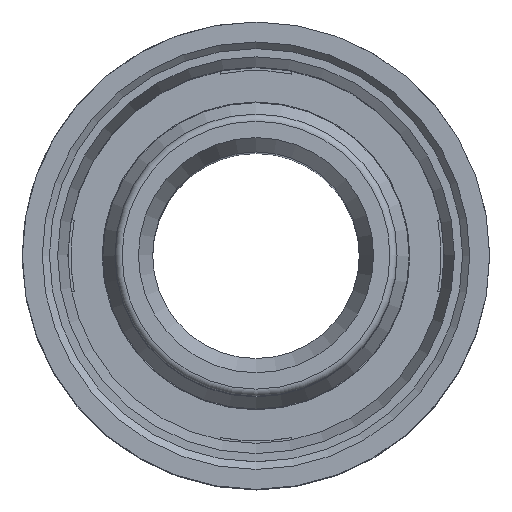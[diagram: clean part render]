
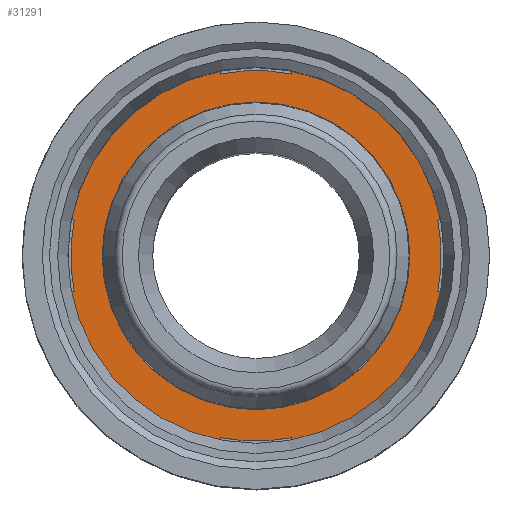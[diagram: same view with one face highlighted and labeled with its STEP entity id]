
A CAD part, top view. The second image highlights one B-rep face of the part: STEP entity #31291.
In plain terms, the highlighted planar face has unit normal (0, 0, 1).
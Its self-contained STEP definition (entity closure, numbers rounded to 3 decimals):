
#211=FACE_BOUND('',#8390,.T.);
#520=PLANE('',#32910);
#1888=LINE('',#64067,#3696);
#1898=LINE('',#64090,#3706);
#1902=LINE('',#64100,#3710);
#1909=LINE('',#64118,#3717);
#1914=LINE('',#64129,#3722);
#1920=LINE('',#64142,#3728);
#1926=LINE('',#64158,#3734);
#1933=LINE('',#64176,#3741);
#3696=VECTOR('',#36426,10.);
#3706=VECTOR('',#36444,10.);
#3710=VECTOR('',#36450,10.);
#3717=VECTOR('',#36465,10.);
#3722=VECTOR('',#36472,10.);
#3728=VECTOR('',#36480,10.);
#3734=VECTOR('',#36494,10.);
#3741=VECTOR('',#36509,10.);
#6578=FACE_OUTER_BOUND('',#8389,.T.);
#8389=EDGE_LOOP('',(#26783,#26784,#26785,#26786,#26787,#26788,#26789,#26790,
#26791,#26792,#26793,#26794,#26795,#26796,#26797,#26798));
#8390=EDGE_LOOP('',(#26799,#26800));
#9428=CIRCLE('',#32850,13.);
#9430=CIRCLE('',#32855,13.);
#9432=CIRCLE('',#32861,13.);
#9434=CIRCLE('',#32865,13.);
#9451=CIRCLE('',#32889,13.2);
#9454=CIRCLE('',#32892,13.2);
#9455=CIRCLE('',#32893,13.2);
#9456=CIRCLE('',#32894,13.2);
#9465=CIRCLE('',#32908,10.8);
#9466=CIRCLE('',#32909,10.8);
#14135=VERTEX_POINT('',#64064);
#14136=VERTEX_POINT('',#64066);
#14140=VERTEX_POINT('',#64076);
#14142=VERTEX_POINT('',#64082);
#14149=VERTEX_POINT('',#64097);
#14150=VERTEX_POINT('',#64099);
#14152=VERTEX_POINT('',#64105);
#14157=VERTEX_POINT('',#64116);
#14161=VERTEX_POINT('',#64126);
#14162=VERTEX_POINT('',#64128);
#14167=VERTEX_POINT('',#64139);
#14168=VERTEX_POINT('',#64141);
#14173=VERTEX_POINT('',#64155);
#14174=VERTEX_POINT('',#64157);
#14176=VERTEX_POINT('',#64163);
#14181=VERTEX_POINT('',#64174);
#14195=VERTEX_POINT('',#64234);
#14196=VERTEX_POINT('',#64236);
#18451=EDGE_CURVE('',#14135,#14136,#1888,.T.);
#18456=EDGE_CURVE('',#14136,#14140,#9428,.T.);
#18463=EDGE_CURVE('',#14140,#14142,#1898,.T.);
#18467=EDGE_CURVE('',#14149,#14150,#1902,.T.);
#18470=EDGE_CURVE('',#14152,#14149,#9430,.T.);
#18476=EDGE_CURVE('',#14157,#14152,#1909,.T.);
#18481=EDGE_CURVE('',#14161,#14162,#1914,.T.);
#18487=EDGE_CURVE('',#14167,#14168,#1920,.T.);
#18490=EDGE_CURVE('',#14162,#14167,#9432,.T.);
#18495=EDGE_CURVE('',#14173,#14174,#1926,.T.);
#18498=EDGE_CURVE('',#14176,#14173,#9434,.T.);
#18504=EDGE_CURVE('',#14181,#14176,#1933,.T.);
#18521=EDGE_CURVE('',#14161,#14142,#9451,.T.);
#18525=EDGE_CURVE('',#14181,#14168,#9454,.T.);
#18526=EDGE_CURVE('',#14157,#14174,#9455,.T.);
#18527=EDGE_CURVE('',#14135,#14150,#9456,.T.);
#18539=EDGE_CURVE('',#14195,#14196,#9465,.T.);
#18540=EDGE_CURVE('',#14196,#14195,#9466,.T.);
#26783=ORIENTED_EDGE('',*,*,#18463,.F.);
#26784=ORIENTED_EDGE('',*,*,#18456,.F.);
#26785=ORIENTED_EDGE('',*,*,#18451,.F.);
#26786=ORIENTED_EDGE('',*,*,#18527,.T.);
#26787=ORIENTED_EDGE('',*,*,#18467,.F.);
#26788=ORIENTED_EDGE('',*,*,#18470,.F.);
#26789=ORIENTED_EDGE('',*,*,#18476,.F.);
#26790=ORIENTED_EDGE('',*,*,#18526,.T.);
#26791=ORIENTED_EDGE('',*,*,#18495,.F.);
#26792=ORIENTED_EDGE('',*,*,#18498,.F.);
#26793=ORIENTED_EDGE('',*,*,#18504,.F.);
#26794=ORIENTED_EDGE('',*,*,#18525,.T.);
#26795=ORIENTED_EDGE('',*,*,#18487,.F.);
#26796=ORIENTED_EDGE('',*,*,#18490,.F.);
#26797=ORIENTED_EDGE('',*,*,#18481,.F.);
#26798=ORIENTED_EDGE('',*,*,#18521,.T.);
#26799=ORIENTED_EDGE('',*,*,#18540,.F.);
#26800=ORIENTED_EDGE('',*,*,#18539,.F.);
#31291=ADVANCED_FACE('',(#6578,#211),#520,.F.);
#32850=AXIS2_PLACEMENT_3D('',#64077,#36433,#36434);
#32855=AXIS2_PLACEMENT_3D('',#64106,#36455,#36456);
#32861=AXIS2_PLACEMENT_3D('',#64147,#36485,#36486);
#32865=AXIS2_PLACEMENT_3D('',#64164,#36499,#36500);
#32889=AXIS2_PLACEMENT_3D('',#64202,#36553,#36554);
#32892=AXIS2_PLACEMENT_3D('',#64208,#36560,#36561);
#32893=AXIS2_PLACEMENT_3D('',#64209,#36562,#36563);
#32894=AXIS2_PLACEMENT_3D('',#64210,#36564,#36565);
#32908=AXIS2_PLACEMENT_3D('',#64237,#36595,#36596);
#32909=AXIS2_PLACEMENT_3D('',#64238,#36597,#36598);
#32910=AXIS2_PLACEMENT_3D('',#64239,#36599,#36600);
#36426=DIRECTION('',(0.982,0.191,0.));
#36433=DIRECTION('center_axis',(0.,0.,-1.));
#36434=DIRECTION('ref_axis',(0.981,-0.192,0.));
#36444=DIRECTION('',(-0.982,0.191,0.));
#36450=DIRECTION('',(-0.191,-0.982,0.));
#36455=DIRECTION('center_axis',(0.,0.,-1.));
#36456=DIRECTION('ref_axis',(0.192,0.981,0.));
#36465=DIRECTION('',(-0.191,0.982,0.));
#36472=DIRECTION('',(0.191,-0.982,0.));
#36480=DIRECTION('',(0.191,0.982,0.));
#36485=DIRECTION('center_axis',(0.,0.,-1.));
#36486=DIRECTION('ref_axis',(-0.192,-0.981,0.));
#36494=DIRECTION('',(0.982,-0.191,0.));
#36499=DIRECTION('center_axis',(0.,0.,-1.));
#36500=DIRECTION('ref_axis',(-0.981,0.192,0.));
#36509=DIRECTION('',(-0.982,-0.191,0.));
#36553=DIRECTION('center_axis',(0.,0.,1.));
#36554=DIRECTION('ref_axis',(1.,0.,0.));
#36560=DIRECTION('center_axis',(0.,0.,1.));
#36561=DIRECTION('ref_axis',(1.,0.,0.));
#36562=DIRECTION('center_axis',(0.,0.,1.));
#36563=DIRECTION('ref_axis',(1.,0.,0.));
#36564=DIRECTION('center_axis',(0.,0.,1.));
#36565=DIRECTION('ref_axis',(1.,0.,0.));
#36595=DIRECTION('center_axis',(0.,0.,1.));
#36596=DIRECTION('ref_axis',(1.,0.,0.));
#36597=DIRECTION('center_axis',(0.,0.,1.));
#36598=DIRECTION('ref_axis',(1.,0.,0.));
#36599=DIRECTION('center_axis',(0.,0.,-1.));
#36600=DIRECTION('ref_axis',(-1.,0.,0.));
#64064=CARTESIAN_POINT('',(-12.954,-2.538,-6.519));
#64066=CARTESIAN_POINT('',(-12.757,-2.5,-6.519));
#64067=CARTESIAN_POINT('',(-7.613,-1.5,-6.519));
#64076=CARTESIAN_POINT('',(-12.757,2.5,-6.519));
#64077=CARTESIAN_POINT('Origin',(0.,0.,-6.519));
#64082=CARTESIAN_POINT('',(-12.954,2.538,-6.519));
#64090=CARTESIAN_POINT('',(-7.214,1.422,-6.519));
#64097=CARTESIAN_POINT('',(-2.5,-12.757,-6.519));
#64099=CARTESIAN_POINT('',(-2.538,-12.954,-6.519));
#64100=CARTESIAN_POINT('',(-2.899,-14.81,-6.519));
#64105=CARTESIAN_POINT('',(2.5,-12.757,-6.519));
#64106=CARTESIAN_POINT('Origin',(0.,0.,-6.519));
#64116=CARTESIAN_POINT('',(2.538,-12.954,-6.519));
#64118=CARTESIAN_POINT('',(2.496,-12.736,-6.519));
#64126=CARTESIAN_POINT('',(-2.538,12.954,-6.519));
#64128=CARTESIAN_POINT('',(-2.5,12.757,-6.519));
#64129=CARTESIAN_POINT('',(-0.024,0.017,-6.519));
#64139=CARTESIAN_POINT('',(2.5,12.757,-6.519));
#64141=CARTESIAN_POINT('',(2.538,12.954,-6.519));
#64142=CARTESIAN_POINT('',(0.427,2.09,-6.519));
#64147=CARTESIAN_POINT('Origin',(0.,0.,-6.519));
#64155=CARTESIAN_POINT('',(12.757,-2.5,-6.519));
#64157=CARTESIAN_POINT('',(12.954,-2.538,-6.519));
#64158=CARTESIAN_POINT('',(9.686,-1.903,-6.519));
#64163=CARTESIAN_POINT('',(12.757,2.5,-6.519));
#64164=CARTESIAN_POINT('Origin',(0.,0.,-6.519));
#64174=CARTESIAN_POINT('',(12.954,2.538,-6.519));
#64176=CARTESIAN_POINT('',(5.141,1.019,-6.519));
#64202=CARTESIAN_POINT('Origin',(0.,0.,-6.519));
#64208=CARTESIAN_POINT('Origin',(0.,0.,-6.519));
#64209=CARTESIAN_POINT('Origin',(0.,0.,-6.519));
#64210=CARTESIAN_POINT('Origin',(0.,0.,-6.519));
#64234=CARTESIAN_POINT('',(0.,10.8,-6.519));
#64236=CARTESIAN_POINT('',(0.,-10.8,-6.519));
#64237=CARTESIAN_POINT('Origin',(0.,0.,-6.519));
#64238=CARTESIAN_POINT('Origin',(0.,0.,-6.519));
#64239=CARTESIAN_POINT('Origin',(0.,-13.2,-6.519));
